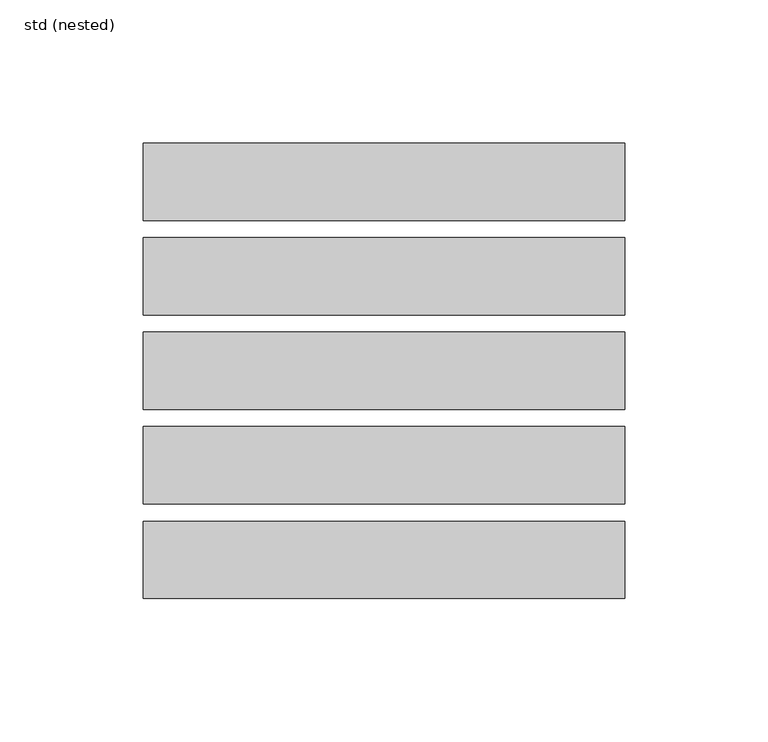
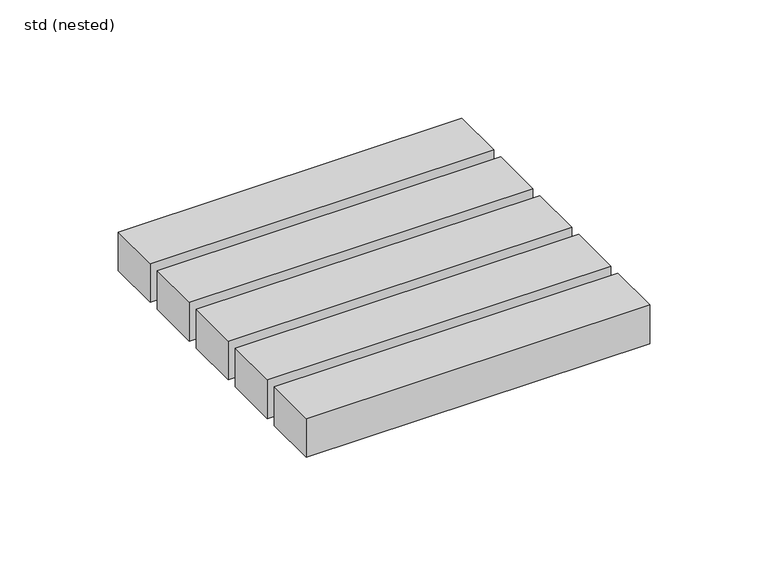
"""IFC4 building model written with IfcOpenShell, lengths in millimetres: sanitary terminal geometry, ZZZ_do not use_PF_ST_UN_square grating for hygienic gully_ACO : std (nested)."""

from ifc_helpers import new_model, si_unit, frame, origin, place, context, project, spatial, polyline, outline, extrude, source, transform, mapped, element, save


def std_nested_8494176b(model_context):
    return source(origin(), model_context, "Body", "SweptSolid", [
        extrude(outline(polyline([(-84.0, -13.5), (-84.0, 13.5), (84.0, 13.5), (84.0, -13.5), (-84.0, -13.5)])), frame((0.0, 0.0, -20.0), z_axis=(0.0, 0.0, 1.0), x_axis=(1.0, 0.0, 0.0)), (0.0, 0.0, 1.0), 20.0),
        extrude(outline(polyline([(-84.0, -79.5), (-84.0, -52.5), (84.0, -52.5), (84.0, -79.5), (-84.0, -79.5)])), frame((0.0, 0.0, -20.0), z_axis=(0.0, 0.0, 1.0), x_axis=(1.0, 0.0, 0.0)), (0.0, 0.0, 1.0), 20.0),
        extrude(outline(polyline([(-84.0, 52.5), (-84.0, 79.5), (84.0, 79.5), (84.0, 52.5), (-84.0, 52.5)])), frame((0.0, 0.0, -20.0), z_axis=(0.0, 0.0, 1.0), x_axis=(1.0, 0.0, 0.0)), (0.0, 0.0, 1.0), 20.0),
        extrude(outline(polyline([(-84.0, 19.5), (-84.0, 46.5), (84.0, 46.5), (84.0, 19.5), (-84.0, 19.5)])), frame((0.0, 0.0, -20.0), z_axis=(0.0, 0.0, 1.0), x_axis=(1.0, 0.0, 0.0)), (0.0, 0.0, 1.0), 20.0),
        extrude(outline(polyline([(-84.0, -46.5), (-84.0, -19.5), (84.0, -19.5), (84.0, -46.5), (-84.0, -46.5)])), frame((0.0, 0.0, -20.0), z_axis=(0.0, 0.0, 1.0), x_axis=(1.0, 0.0, 0.0)), (0.0, 0.0, 1.0), 20.0),
    ])


if __name__ == "__main__":
    model = new_model("IFC4")
    model_context = context("Model", 3, world=origin())
    ifc_project = project(units=[si_unit("LENGTHUNIT", "METRE", prefix="MILLI")], contexts=[model_context])
    site = spatial("IfcSite", under=ifc_project)
    building = spatial("IfcBuilding", under=site)
    placement = place(None, origin())
    std_nested_shape = std_nested_8494176b(model_context)
    element("IfcSanitaryTerminal", 1, ObjectType="ZZZ_do not use_PF_ST_UN_square grating for hygienic gully_ACO : std (nested)", at=placement, inside=building, context=model_context, shape_type="MappedRepresentation", body=[
        mapped(std_nested_shape, transform((0.0, 0.0, 0.0), x_axis=(1.0, 0.0, 0.0), y_axis=(0.0, 1.0, 0.0), z_axis=(0.0, 0.0, 1.0))),
    ])
    save(model, "model.ifc")
